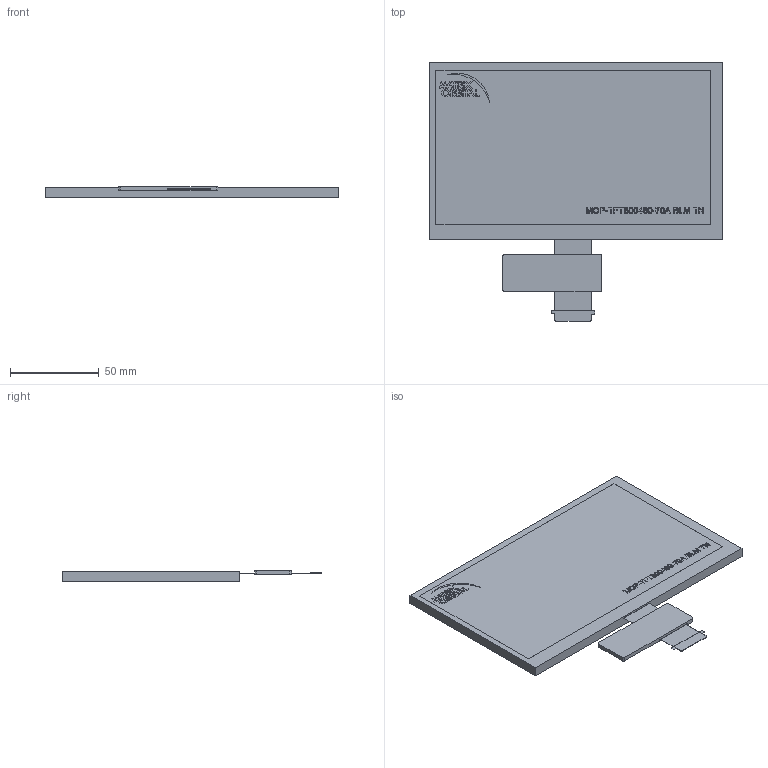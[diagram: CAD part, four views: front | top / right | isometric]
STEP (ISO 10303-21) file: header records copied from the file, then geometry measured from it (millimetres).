
FILE_DESCRIPTION (( 'STEP AP214' ), '1' );
FILE_NAME ('MOP-TFT800480-70A BLM TN TPN.STEP', '2025-08-25T19:02:44', ( '' ), ( '' ), 'SwSTEP 2.0', 'SolidWorks 2021', '' );
FILE_SCHEMA (( 'AUTOMOTIVE_DESIGN' ));
Length unit declared in the file: millimetre
Products named in the file (1): MOP-TFT800480-70A BLM TN TPN
Bounding box: 165 x 146.17 x 6.2 mm (x, y, z)
Volume: 95775.8 mm3; surface area: 39998.3 mm2
Topology: 3 solids, 3 shells, 545 faces, 1452 edges, 968 vertices
Faces by surface type: plane 422, bspline 105, cylinder 18
Entity records: 23341 total; most frequent: CARTESIAN_POINT 9719, ORIENTED_EDGE 2904, DIRECTION 2160, EDGE_CURVE 1452, VECTOR 1206, LINE 1206, VERTEX_POINT 968, EDGE_LOOP 600
